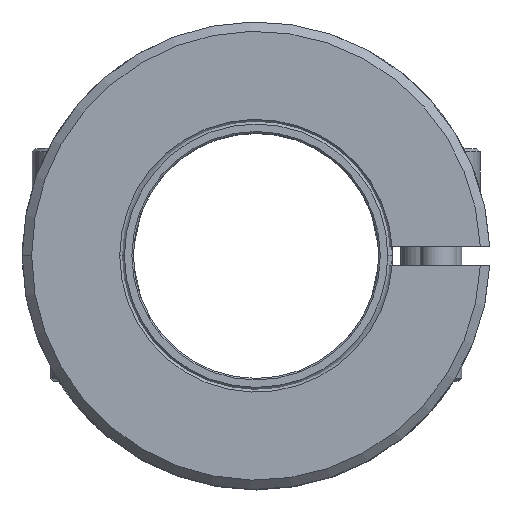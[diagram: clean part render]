
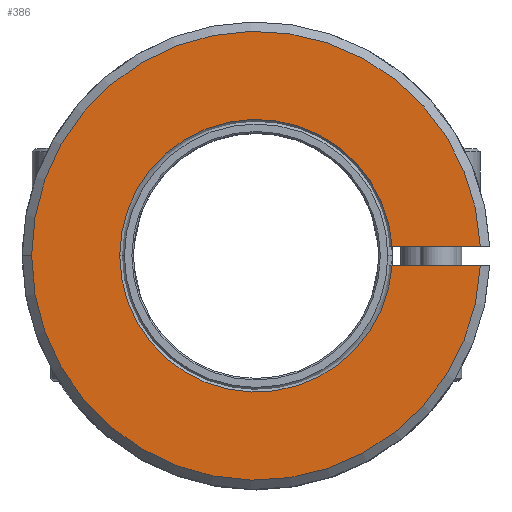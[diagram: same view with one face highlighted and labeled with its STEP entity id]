
A CAD part, top view. The second image highlights one B-rep face of the part: STEP entity #386.
In plain terms, the highlighted planar face has unit normal (0, 0, 1).
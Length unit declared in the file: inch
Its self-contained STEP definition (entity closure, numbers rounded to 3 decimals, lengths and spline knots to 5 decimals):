
#386 = ADVANCED_FACE( '', ( #651 ), #652, .T. );
#651 = FACE_OUTER_BOUND( '', #919, .T. );
#652 = PLANE( '', #920 );
#919 = EDGE_LOOP( '', ( #1856, #1857, #1858, #1859, #1860, #1861 ) );
#920 = AXIS2_PLACEMENT_3D( '', #1862, #1863, #1864 );
#1856 = ORIENTED_EDGE( '', *, *, #2166, .T. );
#1857 = ORIENTED_EDGE( '', *, *, #2179, .F. );
#1858 = ORIENTED_EDGE( '', *, *, #2129, .F. );
#1859 = ORIENTED_EDGE( '', *, *, #2174, .T. );
#1860 = ORIENTED_EDGE( '', *, *, #2175, .F. );
#1861 = ORIENTED_EDGE( '', *, *, #2145, .F. );
#1862 = CARTESIAN_POINT( '', ( 0., 0., 0.875 ) );
#1863 = DIRECTION( '', ( 0., 0., 1. ) );
#1864 = DIRECTION( '', ( 1., 0., 0. ) );
#2129 = EDGE_CURVE( '', #2581, #2577, #2583, .T. );
#2145 = EDGE_CURVE( '', #2611, #2607, #2613, .T. );
#2166 = EDGE_CURVE( '', #2611, #2644, #2646, .T. );
#2174 = EDGE_CURVE( '', #2581, #2657, #2659, .T. );
#2175 = EDGE_CURVE( '', #2607, #2657, #2660, .T. );
#2179 = EDGE_CURVE( '', #2577, #2644, #2664, .T. );
#2577 = VERTEX_POINT( '', #3442 );
#2581 = VERTEX_POINT( '', #3447 );
#2583 = CIRCLE( '', #3450, 0.4375 );
#2607 = VERTEX_POINT( '', #3497 );
#2611 = VERTEX_POINT( '', #3502 );
#2613 = CIRCLE( '', #3505, 0.72 );
#2644 = VERTEX_POINT( '', #3583 );
#2646 = LINE( '', #3586, #3587 );
#2657 = VERTEX_POINT( '', #3604 );
#2659 = LINE( '', #3607, #3608 );
#2660 = CIRCLE( '', #3609, 0.72 );
#2664 = CIRCLE( '', #3613, 0.4375 );
#3442 = CARTESIAN_POINT( '', ( -0.4375, 0., 0.875 ) );
#3447 = CARTESIAN_POINT( '', ( 0.43647, 0.03, 0.875 ) );
#3450 = AXIS2_PLACEMENT_3D( '', #4026, #4027, #4028 );
#3497 = CARTESIAN_POINT( '', ( -0.72, 0., 0.875 ) );
#3502 = CARTESIAN_POINT( '', ( 0.71937, -0.03, 0.875 ) );
#3505 = AXIS2_PLACEMENT_3D( '', #4054, #4055, #4056 );
#3583 = CARTESIAN_POINT( '', ( 0.43647, -0.03, 0.875 ) );
#3586 = CARTESIAN_POINT( '', ( 0., -0.03, 0.875 ) );
#3587 = VECTOR( '', #4091, 1. );
#3604 = CARTESIAN_POINT( '', ( 0.71937, 0.03, 0.875 ) );
#3607 = CARTESIAN_POINT( '', ( 1.02343, 0.03, 0.875 ) );
#3608 = VECTOR( '', #4099, 1. );
#3609 = AXIS2_PLACEMENT_3D( '', #4100, #4101, #4102 );
#3613 = AXIS2_PLACEMENT_3D( '', #4112, #4113, #4114 );
#4026 = CARTESIAN_POINT( '', ( 0., 0., 0.875 ) );
#4027 = DIRECTION( '', ( 0., 0., 1. ) );
#4028 = DIRECTION( '', ( -1., 0., 0. ) );
#4054 = CARTESIAN_POINT( '', ( 0., 0., 0.875 ) );
#4055 = DIRECTION( '', ( 0., 0., -1. ) );
#4056 = DIRECTION( '', ( -1., 0., 0. ) );
#4091 = DIRECTION( '', ( -1., 0., 0. ) );
#4099 = DIRECTION( '', ( 1., 0., 0. ) );
#4100 = CARTESIAN_POINT( '', ( 0., 0., 0.875 ) );
#4101 = DIRECTION( '', ( 0., 0., -1. ) );
#4102 = DIRECTION( '', ( -1., 0., 0. ) );
#4112 = CARTESIAN_POINT( '', ( 0., 0., 0.875 ) );
#4113 = DIRECTION( '', ( 0., 0., 1. ) );
#4114 = DIRECTION( '', ( -1., 0., 0. ) );
